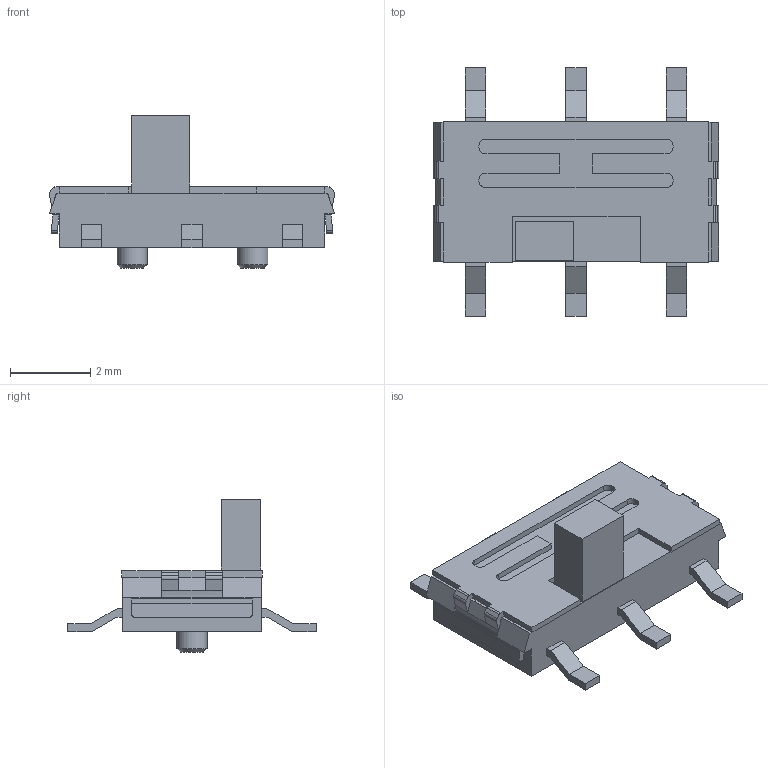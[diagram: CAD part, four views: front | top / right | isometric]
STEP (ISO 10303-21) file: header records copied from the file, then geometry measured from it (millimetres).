
FILE_DESCRIPTION(/* description */ ('Unknown'),/* implementation_level */ '2;1');
FILE_NAME(/* name */ 'SLW-713515-2A-SMT-TR',/* time_stamp */ '2024-06-03T08:56:16+02:00',/* author */ ('Unknown'),/* organization */ ('Unknown'),/* preprocessor_version */ 'ST-DEVELOPER v18.102',/* originating_system */ 'Solid Edge',/* authorisation */ 'Unknown');
FILE_SCHEMA (('AUTOMOTIVE_DESIGN {1 0 10303 214 3 1 1}'));
Length unit declared in the file: millimetre
Products named in the file (1): SLW-713515-2A-SMT-TR
Bounding box: 7.11 x 6.18 x 3.79 mm (x, y, z)
Volume: 38.2 mm3; surface area: 113.4 mm2
Topology: 1 solids, 1 shells, 190 faces, 523 edges, 337 vertices
Faces by surface type: plane 156, cylinder 32, cone 2
Full cylindrical faces by diameter (mm): 0.75 x2
Entity records: 7274 total; most frequent: CARTESIAN_POINT 1045, ORIENTED_EDGE 1036, DIRECTION 966, EDGE_CURVE 518, LINE 452, VECTOR 452, VERTEX_POINT 336, AXIS2_PLACEMENT_3D 257
